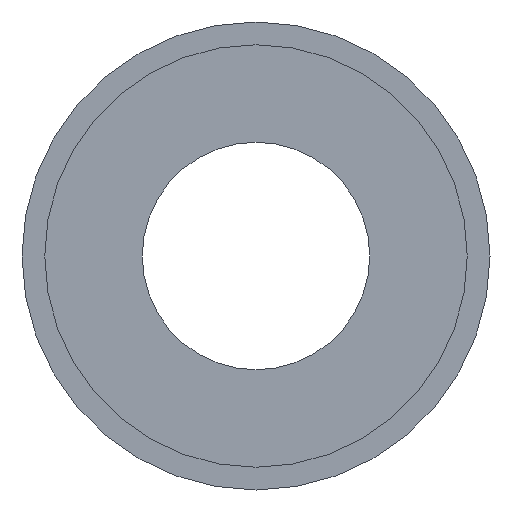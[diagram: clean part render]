
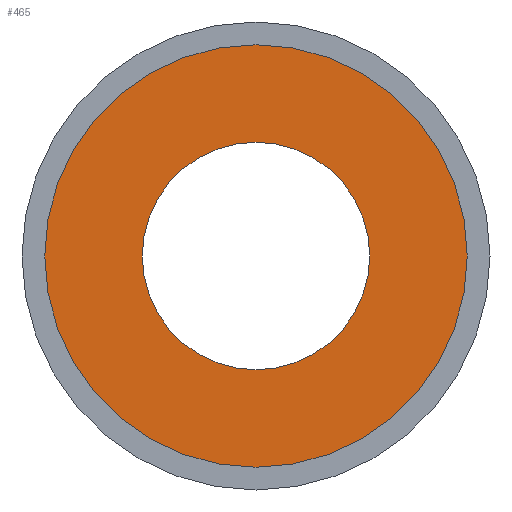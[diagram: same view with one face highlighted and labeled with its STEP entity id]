
A CAD part, front view. The second image highlights one B-rep face of the part: STEP entity #465.
In plain terms, the highlighted planar face has unit normal (0, -1, 0).
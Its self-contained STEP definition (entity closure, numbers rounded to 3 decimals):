
#29 = DIRECTION ( 'NONE',  ( 0., 1., 0. ) ) ;
#117 = AXIS2_PLACEMENT_3D ( 'NONE', #1891, #361, #1302 ) ;
#193 = PLANE ( 'NONE',  #1087 ) ;
#272 = CARTESIAN_POINT ( 'NONE',  ( 0., -15., -32.5 ) ) ;
#342 = ORIENTED_EDGE ( 'NONE', *, *, #1834, .T. ) ;
#361 = DIRECTION ( 'NONE',  ( 0., -1., 0. ) ) ;
#395 = AXIS2_PLACEMENT_3D ( 'NONE', #1119, #1510, #758 ) ;
#435 = EDGE_LOOP ( 'NONE', ( #342, #2003 ) ) ;
#465 = ADVANCED_FACE ( 'NONE', ( #2224, #1406 ), #193, .F. ) ;
#466 = ORIENTED_EDGE ( 'NONE', *, *, #1650, .F. ) ;
#481 = DIRECTION ( 'NONE',  ( 0., -1., 0. ) ) ;
#647 = CIRCLE ( 'NONE', #395, 32.5 ) ;
#748 = AXIS2_PLACEMENT_3D ( 'NONE', #1977, #1210, #1612 ) ;
#758 = DIRECTION ( 'NONE',  ( 0., 0., -1. ) ) ;
#843 = EDGE_CURVE ( 'NONE', #1449, #2466, #1658, .T. ) ;
#888 = CIRCLE ( 'NONE', #748, 17.5 ) ;
#947 = DIRECTION ( 'NONE',  ( 0., 0., 1. ) ) ;
#956 = CARTESIAN_POINT ( 'NONE',  ( 0., -15., 17.5 ) ) ;
#1047 = EDGE_CURVE ( 'NONE', #1968, #1930, #888, .T. ) ;
#1087 = AXIS2_PLACEMENT_3D ( 'NONE', #956, #29, #947 ) ;
#1093 = ORIENTED_EDGE ( 'NONE', *, *, #1047, .F. ) ;
#1119 = CARTESIAN_POINT ( 'NONE',  ( 0., -15., 0. ) ) ;
#1168 = CIRCLE ( 'NONE', #1639, 17.5 ) ;
#1210 = DIRECTION ( 'NONE',  ( 0., -1., 0. ) ) ;
#1216 = EDGE_LOOP ( 'NONE', ( #466, #1093 ) ) ;
#1302 = DIRECTION ( 'NONE',  ( 0., 0., -1. ) ) ;
#1406 = FACE_OUTER_BOUND ( 'NONE', #435, .T. ) ;
#1449 = VERTEX_POINT ( 'NONE', #2367 ) ;
#1510 = DIRECTION ( 'NONE',  ( 0., -1., 0. ) ) ;
#1553 = CARTESIAN_POINT ( 'NONE',  ( 0., -15., 17.5 ) ) ;
#1612 = DIRECTION ( 'NONE',  ( 0., 0., -1. ) ) ;
#1639 = AXIS2_PLACEMENT_3D ( 'NONE', #2017, #481, #2208 ) ;
#1650 = EDGE_CURVE ( 'NONE', #1930, #1968, #1168, .T. ) ;
#1658 = CIRCLE ( 'NONE', #117, 32.5 ) ;
#1834 = EDGE_CURVE ( 'NONE', #2466, #1449, #647, .T. ) ;
#1891 = CARTESIAN_POINT ( 'NONE',  ( 0., -15., 0. ) ) ;
#1930 = VERTEX_POINT ( 'NONE', #2310 ) ;
#1968 = VERTEX_POINT ( 'NONE', #1553 ) ;
#1977 = CARTESIAN_POINT ( 'NONE',  ( 0., -15., 0. ) ) ;
#2003 = ORIENTED_EDGE ( 'NONE', *, *, #843, .T. ) ;
#2017 = CARTESIAN_POINT ( 'NONE',  ( 0., -15., 0. ) ) ;
#2208 = DIRECTION ( 'NONE',  ( 0., 0., -1. ) ) ;
#2224 = FACE_BOUND ( 'NONE', #1216, .T. ) ;
#2310 = CARTESIAN_POINT ( 'NONE',  ( 0., -15., -17.5 ) ) ;
#2367 = CARTESIAN_POINT ( 'NONE',  ( 0., -15., 32.5 ) ) ;
#2466 = VERTEX_POINT ( 'NONE', #272 ) ;
